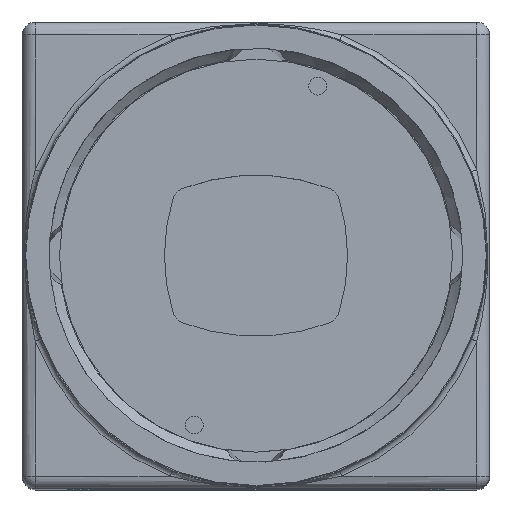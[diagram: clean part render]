
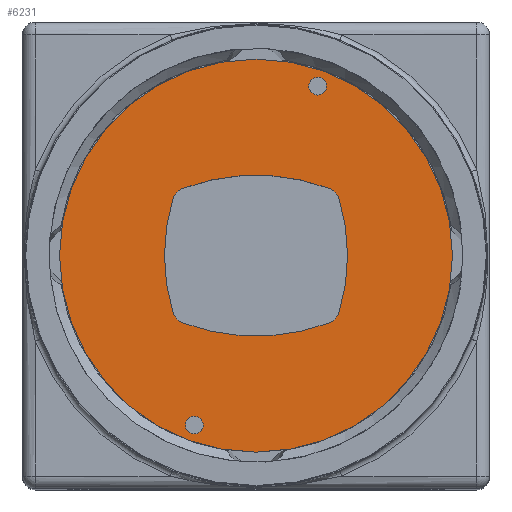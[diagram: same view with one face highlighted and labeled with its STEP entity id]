
A CAD part, top view. The second image highlights one B-rep face of the part: STEP entity #6231.
In plain terms, the highlighted planar face has unit normal (0, 0, 1).
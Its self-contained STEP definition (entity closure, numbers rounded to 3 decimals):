
#6231 = ADVANCED_FACE( '', ( #16076, #16077, #16078, #16079 ), #16080, .F. );
#16076 = FACE_BOUND( '', #29881, .T. );
#16077 = FACE_BOUND( '', #29882, .T. );
#16078 = FACE_BOUND( '', #29883, .T. );
#16079 = FACE_OUTER_BOUND( '', #29884, .T. );
#16080 = PLANE( '', #29885 );
#29881 = EDGE_LOOP( '', ( #48768 ) );
#29882 = EDGE_LOOP( '', ( #48769 ) );
#29883 = EDGE_LOOP( '', ( #48770, #48771, #48772, #48773, #48774, #48775, #48776, #48777 ) );
#29884 = EDGE_LOOP( '', ( #48778 ) );
#29885 = AXIS2_PLACEMENT_3D( '', #48779, #48780, #48781 );
#48768 = ORIENTED_EDGE( '', *, *, #65139, .T. );
#48769 = ORIENTED_EDGE( '', *, *, #65140, .T. );
#48770 = ORIENTED_EDGE( '', *, *, #65141, .T. );
#48771 = ORIENTED_EDGE( '', *, *, #65142, .T. );
#48772 = ORIENTED_EDGE( '', *, *, #65143, .T. );
#48773 = ORIENTED_EDGE( '', *, *, #63678, .T. );
#48774 = ORIENTED_EDGE( '', *, *, #65144, .T. );
#48775 = ORIENTED_EDGE( '', *, *, #65145, .T. );
#48776 = ORIENTED_EDGE( '', *, *, #65146, .T. );
#48777 = ORIENTED_EDGE( '', *, *, #64487, .T. );
#48778 = ORIENTED_EDGE( '', *, *, #65147, .F. );
#48779 = CARTESIAN_POINT( '', ( 1.907, 5.239, 5.8 ) );
#48780 = DIRECTION( '', ( 0., 0., -1. ) );
#48781 = DIRECTION( '', ( -1., 0., 0. ) );
#63678 = EDGE_CURVE( '', #69219, #69220, #69221, .T. );
#64487 = EDGE_CURVE( '', #70464, #70465, #70466, .T. );
#65139 = EDGE_CURVE( '', #71472, #71472, #71473, .T. );
#65140 = EDGE_CURVE( '', #71474, #71474, #71475, .T. );
#65141 = EDGE_CURVE( '', #70465, #71476, #71477, .T. );
#65142 = EDGE_CURVE( '', #71476, #71478, #71479, .T. );
#65143 = EDGE_CURVE( '', #71478, #69219, #71480, .T. );
#65144 = EDGE_CURVE( '', #69220, #71481, #71482, .T. );
#65145 = EDGE_CURVE( '', #71481, #71483, #71484, .T. );
#65146 = EDGE_CURVE( '', #71483, #70464, #71485, .T. );
#65147 = EDGE_CURVE( '', #71486, #71486, #71487, .T. );
#69219 = VERTEX_POINT( '', #76784 );
#69220 = VERTEX_POINT( '', #76785 );
#69221 = CIRCLE( '', #76786, 1. );
#70464 = VERTEX_POINT( '', #78693 );
#70465 = VERTEX_POINT( '', #78694 );
#70466 = CIRCLE( '', #78695, 1. );
#71472 = VERTEX_POINT( '', #80369 );
#71473 = CIRCLE( '', #80370, 0.55 );
#71474 = VERTEX_POINT( '', #80371 );
#71475 = CIRCLE( '', #80372, 0.55 );
#71476 = VERTEX_POINT( '', #80373 );
#71477 = CIRCLE( '', #80374, 12. );
#71478 = VERTEX_POINT( '', #80375 );
#71479 = CIRCLE( '', #80376, 1. );
#71480 = CIRCLE( '', #80377, 13. );
#71481 = VERTEX_POINT( '', #80378 );
#71482 = CIRCLE( '', #80379, 12. );
#71483 = VERTEX_POINT( '', #80380 );
#71484 = CIRCLE( '', #80381, 1. );
#71485 = CIRCLE( '', #80382, 13. );
#71486 = VERTEX_POINT( '', #80383 );
#71487 = CIRCLE( '', #80384, 12.2 );
#76784 = CARTESIAN_POINT( '', ( -4.548, -4.179, 5.8 ) );
#76785 = CARTESIAN_POINT( '', ( -5.153, -3.537, 5.8 ) );
#76786 = AXIS2_PLACEMENT_3D( '', #87016, #87017, #87018 );
#78693 = CARTESIAN_POINT( '', ( 4.548, 4.179, 5.8 ) );
#78694 = CARTESIAN_POINT( '', ( 5.153, 3.537, 5.8 ) );
#78695 = AXIS2_PLACEMENT_3D( '', #87938, #87939, #87940 );
#80369 = CARTESIAN_POINT( '', ( -3.831, -11.075, 5.8 ) );
#80370 = AXIS2_PLACEMENT_3D( '', #88682, #88683, #88684 );
#80371 = CARTESIAN_POINT( '', ( 3.831, 9.975, 5.8 ) );
#80372 = AXIS2_PLACEMENT_3D( '', #88685, #88686, #88687 );
#80373 = CARTESIAN_POINT( '', ( 5.153, -3.537, 5.8 ) );
#80374 = AXIS2_PLACEMENT_3D( '', #88688, #88689, #88690 );
#80375 = CARTESIAN_POINT( '', ( 4.548, -4.179, 5.8 ) );
#80376 = AXIS2_PLACEMENT_3D( '', #88691, #88692, #88693 );
#80377 = AXIS2_PLACEMENT_3D( '', #88694, #88695, #88696 );
#80378 = CARTESIAN_POINT( '', ( -5.153, 3.537, 5.8 ) );
#80379 = AXIS2_PLACEMENT_3D( '', #88697, #88698, #88699 );
#80380 = CARTESIAN_POINT( '', ( -4.548, 4.179, 5.8 ) );
#80381 = AXIS2_PLACEMENT_3D( '', #88700, #88701, #88702 );
#80382 = AXIS2_PLACEMENT_3D( '', #88703, #88704, #88705 );
#80383 = CARTESIAN_POINT( '', ( -12.2, 0., 5.8 ) );
#80384 = AXIS2_PLACEMENT_3D( '', #88706, #88707, #88708 );
#87016 = CARTESIAN_POINT( '', ( -4.198, -3.242, 5.8 ) );
#87017 = DIRECTION( '', ( 0., 0., -1. ) );
#87018 = DIRECTION( '', ( -1., 0., 0. ) );
#87938 = CARTESIAN_POINT( '', ( 4.198, 3.242, 5.8 ) );
#87939 = DIRECTION( '', ( 0., 0., -1. ) );
#87940 = DIRECTION( '', ( -1., 0., 0. ) );
#88682 = CARTESIAN_POINT( '', ( -3.831, -10.525, 5.8 ) );
#88683 = DIRECTION( '', ( 0., 0., -1. ) );
#88684 = DIRECTION( '', ( 0., -1., 0. ) );
#88685 = CARTESIAN_POINT( '', ( 3.831, 10.525, 5.8 ) );
#88686 = DIRECTION( '', ( 0., 0., -1. ) );
#88687 = DIRECTION( '', ( 0., -1., 0. ) );
#88688 = CARTESIAN_POINT( '', ( -6.314, 0., 5.8 ) );
#88689 = DIRECTION( '', ( 0., 0., -1. ) );
#88690 = DIRECTION( '', ( -1., 0., 0. ) );
#88691 = CARTESIAN_POINT( '', ( 4.198, -3.242, 5.8 ) );
#88692 = DIRECTION( '', ( 0., 0., -1. ) );
#88693 = DIRECTION( '', ( -1., 0., 0. ) );
#88694 = CARTESIAN_POINT( '', ( 0., 8., 5.8 ) );
#88695 = DIRECTION( '', ( 0., 0., -1. ) );
#88696 = DIRECTION( '', ( 1., 0., 0. ) );
#88697 = CARTESIAN_POINT( '', ( 6.314, 0., 5.8 ) );
#88698 = DIRECTION( '', ( 0., 0., -1. ) );
#88699 = DIRECTION( '', ( 1., 0., 0. ) );
#88700 = CARTESIAN_POINT( '', ( -4.198, 3.242, 5.8 ) );
#88701 = DIRECTION( '', ( 0., 0., -1. ) );
#88702 = DIRECTION( '', ( -1., 0., 0. ) );
#88703 = CARTESIAN_POINT( '', ( 0., -8., 5.8 ) );
#88704 = DIRECTION( '', ( 0., 0., -1. ) );
#88705 = DIRECTION( '', ( 1., 0., 0. ) );
#88706 = CARTESIAN_POINT( '', ( 0., 0., 5.8 ) );
#88707 = DIRECTION( '', ( 0., 0., -1. ) );
#88708 = DIRECTION( '', ( -1., 0., 0. ) );
